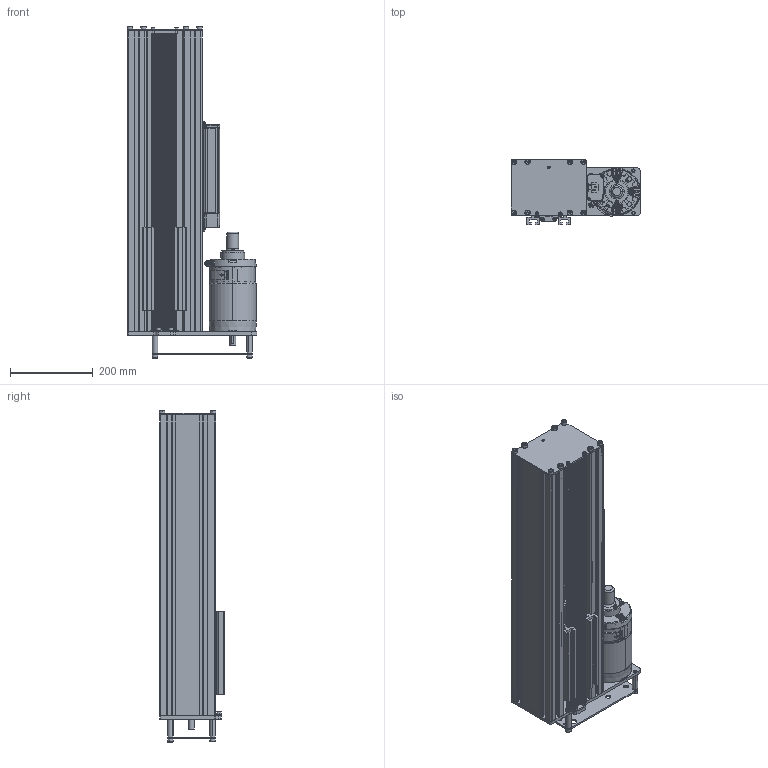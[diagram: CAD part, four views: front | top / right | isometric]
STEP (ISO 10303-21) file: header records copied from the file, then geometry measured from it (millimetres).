
FILE_DESCRIPTION (( 'STEP AP203' ), '1' );
FILE_NAME ('EZ03084.STEP', '2022-11-03T15:01:02', ( '' ), ( '' ), 'SwSTEP 2.0', 'SolidWorks 2021', '' );
FILE_SCHEMA (( 'CONFIG_CONTROL_DESIGN' ));
Length unit declared in the file: millimetre
Products named in the file (21): EZ03091_EB800 Hub 460 ausgefahren; EZ01735; EZ02232; EZ00690_L„nge:725mm; EZ00693_L„nge:200mm; EZ02250; socket head cap screw_1_din_DIN 912 M6 x 12 --- 12N - 8.8 verz.; EZ03084; socket head cap screw_1_din_DIN 912 M8 x 55 --- 28N - 8.8 verz.; EZ00692_L„nge: 716mm; DC Motor-Mit Bremse-6921072E_ohne Bremse; EZ03237; Steuerung Syncontrol SYC3-ON-S-RM-EU-XXXX; DIN912-M5x30_DIN 912 M5 x 30 --- 30N - 8.8 verz.; socket head cap screw_1_din_DIN 912 M8 x 30 --- 30N - 8.8 verz.; EZ03085_Profill„nge: 200mm; EZ03054; EZ02249; EZ03093; Zylinderschraube mit Innensechskant DIN 912 - M4 x 25_DIN 912 M4 x 25 --- 25N - 8.8 verz.; EZ00527_elektrisch
Assembly tree (37 placements, depth 3):
  EZ03084
    EZ03091_EB800 Hub 460 ausgefahren
      EZ00690_L„nge:725mm  x2
      EZ03054
    EZ03085_Profill„nge: 200mm
      EZ00693_L„nge:200mm
    EZ02249
    EZ00692_L„nge: 716mm
    socket head cap screw_1_din_DIN 912 M8 x 30 --- 30N - 8.8 verz.  x8
    DIN912-M5x30_DIN 912 M5 x 30 --- 30N - 8.8 verz.  x2
    EZ00527_elektrisch
    EZ02232
    socket head cap screw_1_din_DIN 912 M6 x 12 --- 12N - 8.8 verz.  x2
    EZ03093
      DC Motor-Mit Bremse-6921072E_ohne Bremse
    EZ01735  x4
    EZ02250
    socket head cap screw_1_din_DIN 912 M8 x 55 --- 28N - 8.8 verz.  x4
    Steuerung Syncontrol SYC3-ON-S-RM-EU-XXXX
    EZ03237
    Zylinderschraube mit Innensechskant DIN 912 - M4 x 25_DIN 912 M4 x 25 --- 25N - 8.8 verz.  x2
Bounding box: 312.5 x 157.5 x 800 mm (x, y, z)
Volume: 6615819.3 mm3; surface area: 2531145.7 mm2
Topology: 34 solids, 45 shells, 5169 faces, 13800 edges, 8643 vertices
Faces by surface type: plane 1900, cylinder 1540, bspline 1241, cone 393, torus 91, sphere 4
Entity records: 193175 total; most frequent: CARTESIAN_POINT 87472, ORIENTED_EDGE 23928, DIRECTION 18369, EDGE_CURVE 11964, VERTEX_POINT 7628, AXIS2_PLACEMENT_3D 6576, VECTOR 5217, LINE 5217
